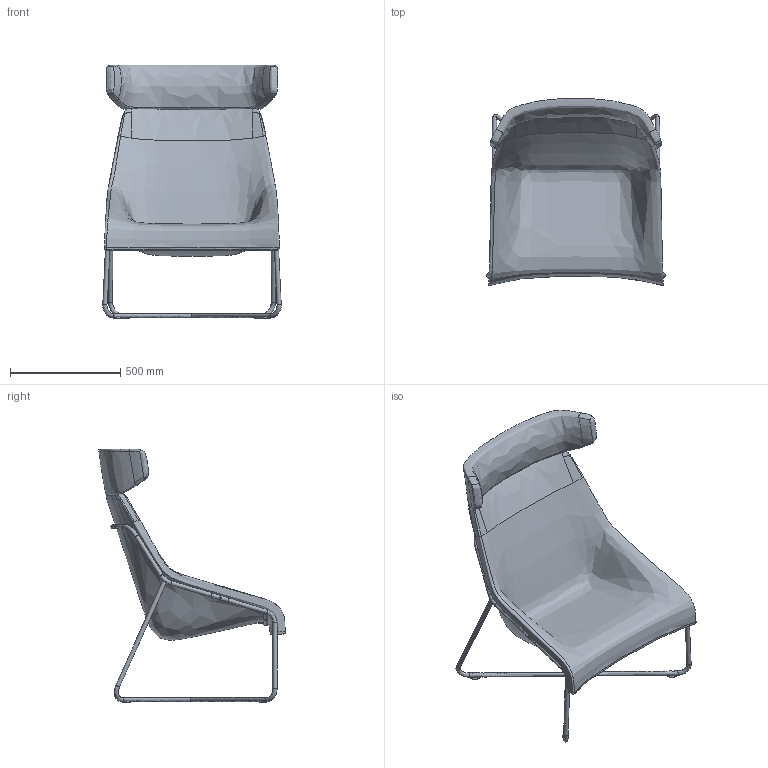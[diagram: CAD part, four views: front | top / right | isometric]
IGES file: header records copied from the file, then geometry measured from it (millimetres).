
Global section: file name: Poltrona aria con cabecero; native system: Autodesk Inventor 2025; preprocessor: unknown; author: jramirez; date: 20260114.123601; units: millimetre
Bounding box: 808.02 x 844.52 x 1148.6 mm (x, y, z)
Volume: 72615777 mm3; surface area: 3732964.4 mm2
Topology: 47 solids, 47 shells, 565 faces, 1606 edges, 1170 vertices
Faces by surface type: bspline 565
